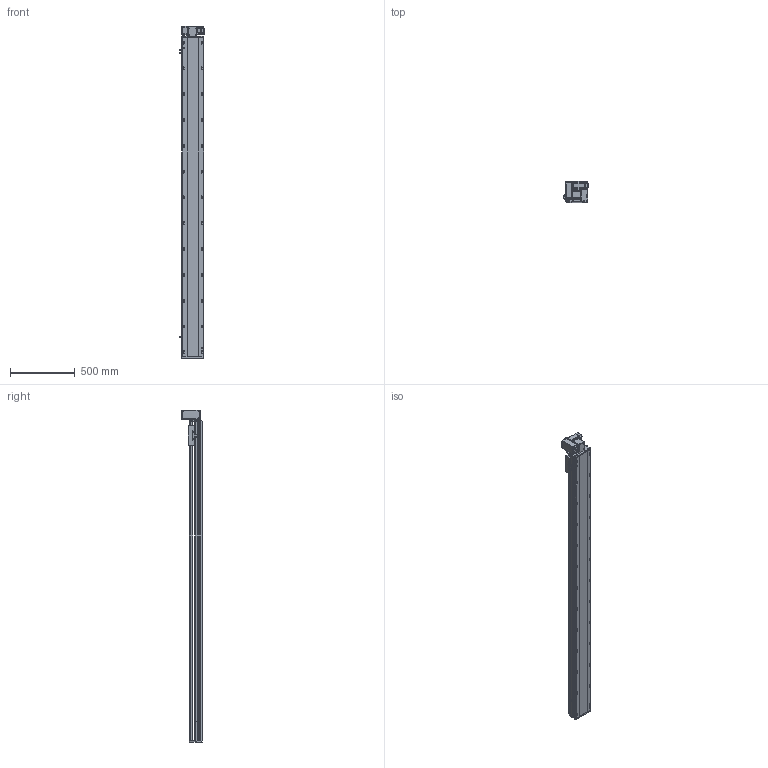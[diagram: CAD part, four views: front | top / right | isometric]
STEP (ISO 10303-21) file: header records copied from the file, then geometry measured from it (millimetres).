
FILE_DESCRIPTION (( 'STEP AP214' ), '1' );
FILE_NAME ('RTB17S-XX-2200-LW-M40-C4.STEP', '2025-12-11T07:14:26', ( '' ), ( '' ), 'SwSTEP 2.0', 'SolidWorks 2018', '' );
FILE_SCHEMA (( 'AUTOMOTIVE_DESIGN' ));
Length unit declared in the file: millimetre
Products named in the file (14): RTB17S-XX-2200-LW-M40-C4; RTB17-R-011菁釱^RTB17S-XX-XX-LW-M40-C4; RTB17S-L-007奻裔^RTB17S-XX-XX-LW-M40-C4; RTB14-L-017P^RTB17S-LW-々湍釱蚾饜-400W_RTB17S-XX-XX-LW-M40-C4; RTB17S-LW-々湍釱蚾饜-400W^RTB17S-XX-XX-LW-M40-C4; RTB14-L-018P^RTB17S-LW-々湍釱蚾饜-400W_RTB17S-XX-XX-LW-M40-C4; RTB14-L-008-M20--萇儂啣^RTB17S-LW-々湍釱蚾饜-400W_RTB17S-XX-XX-LW-M40-C4; RTB17S-L-001耜醱啣^RTB17S-XX-XX-LW-M40-C4; RTB17S-L-014-T20--々湍釱^RTB17S-LW-々湍釱蚾饜-400W_RTB17S-XX-XX-LW-M40-C4; RTB14-L-005P--轴承塑胶压盖^RTB17S-LW-皮带座装配-400W_RTB17S-XX-XX-LW-M40-C4; RTH13-BL-012覜茼え俋离^RTB17S-XX-XX-LW-M40-C4; 400W侜督萇儂^RTB17S-XX-XX-LW-M40-C4; OMRON EE-SX672 传感器^RTB17S-XX-XX-LW-M40-C4; RTB17S-L-004佪裝蹟譫蟀諉釱^RTB17S-XX-XX-LW-M40-C4
Assembly tree (16 placements, depth 3):
  RTB17S-XX-2200-LW-M40-C4
    RTB17-R-011菁釱^RTB17S-XX-XX-LW-M40-C4
    RTB17S-L-007奻裔^RTB17S-XX-XX-LW-M40-C4
    OMRON EE-SX672 传感器^RTB17S-XX-XX-LW-M40-C4  x3
    RTB17S-L-001耜醱啣^RTB17S-XX-XX-LW-M40-C4
    400W侜督萇儂^RTB17S-XX-XX-LW-M40-C4
    RTB17S-L-004佪裝蹟譫蟀諉釱^RTB17S-XX-XX-LW-M40-C4
    RTH13-BL-012覜茼え俋离^RTB17S-XX-XX-LW-M40-C4
    RTB17S-LW-々湍釱蚾饜-400W^RTB17S-XX-XX-LW-M40-C4
      RTB17S-L-014-T20--々湍釱^RTB17S-LW-々湍釱蚾饜-400W_RTB17S-XX-XX-LW-M40-C4
      RTB14-L-005P--轴承塑胶压盖^RTB17S-LW-皮带座装配-400W_RTB17S-XX-XX-LW-M40-C4
      RTB14-L-008-M20--萇儂啣^RTB17S-LW-々湍釱蚾饜-400W_RTB17S-XX-XX-LW-M40-C4
      RTB14-L-017P^RTB17S-LW-々湍釱蚾饜-400W_RTB17S-XX-XX-LW-M40-C4  x2
      RTB14-L-018P^RTB17S-LW-々湍釱蚾饜-400W_RTB17S-XX-XX-LW-M40-C4
Bounding box: 186 x 160.5 x 2572.5 mm (x, y, z)
Volume: 22162872.7 mm3; surface area: 2564315.2 mm2
Topology: 15 solids, 15 shells, 2301 faces, 6411 edges, 4185 vertices
Faces by surface type: plane 1080, cylinder 773, bspline 301, cone 139, torus 8
Entity records: 67241 total; most frequent: CARTESIAN_POINT 19016, ORIENTED_EDGE 9666, DIRECTION 8936, EDGE_CURVE 4833, VERTEX_POINT 3173, AXIS2_PLACEMENT_3D 3103, VECTOR 2730, LINE 2730
